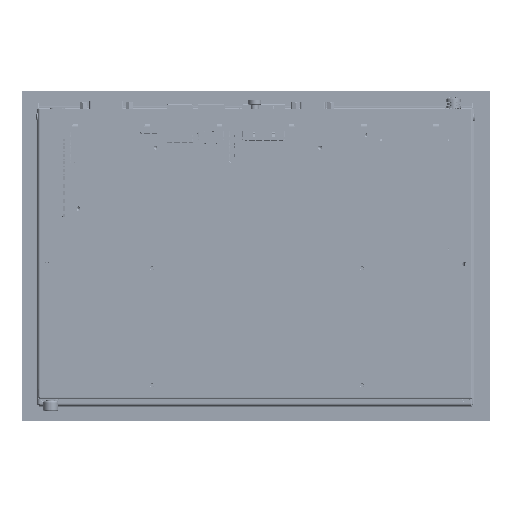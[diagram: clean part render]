
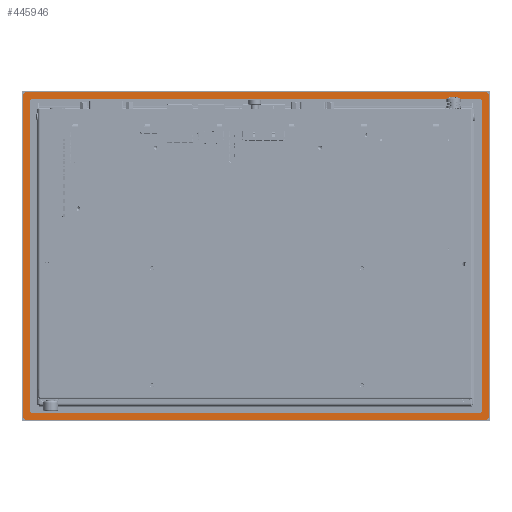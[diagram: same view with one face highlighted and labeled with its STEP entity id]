
A CAD part, front view. The second image highlights one B-rep face of the part: STEP entity #445946.
In plain terms, the highlighted planar face has unit normal (0, -1, 0).
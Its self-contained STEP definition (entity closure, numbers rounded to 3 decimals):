
#1013 = ORIENTED_EDGE ( 'NONE', *, *, #273734, .F. ) ;
#18241 = AXIS2_PLACEMENT_3D ( 'NONE', #714880, #640616, #336709 ) ;
#21949 = CIRCLE ( 'NONE', #809117, 1. ) ;
#32376 = VERTEX_POINT ( 'NONE', #292591 ) ;
#33002 = EDGE_CURVE ( 'NONE', #618629, #251806, #686676, .T. ) ;
#39154 = VECTOR ( 'NONE', #741166, 1000. ) ;
#43183 = DIRECTION ( 'NONE',  ( 1., 0., 0. ) ) ;
#44904 = EDGE_CURVE ( 'NONE', #704969, #551937, #305956, .T. ) ;
#50464 = EDGE_LOOP ( 'NONE', ( #138203, #659644, #341992, #255423, #338565, #619307, #530589, #771738 ) ) ;
#50985 = CARTESIAN_POINT ( 'NONE',  ( 158.5, 0., 111. ) ) ;
#62886 = CARTESIAN_POINT ( 'NONE',  ( -164.5, 0., 114. ) ) ;
#68148 = VECTOR ( 'NONE', #116908, 1000. ) ;
#86192 = VERTEX_POINT ( 'NONE', #159908 ) ;
#86249 = DIRECTION ( 'NONE',  ( 0., 0., -1. ) ) ;
#88969 = CARTESIAN_POINT ( 'NONE',  ( 164.5, 0., 114. ) ) ;
#93926 = CARTESIAN_POINT ( 'NONE',  ( 158.5, 0., 110. ) ) ;
#99379 = VERTEX_POINT ( 'NONE', #608553 ) ;
#99466 = VERTEX_POINT ( 'NONE', #50985 ) ;
#99819 = CARTESIAN_POINT ( 'NONE',  ( 162.5, 0., 116. ) ) ;
#104882 = DIRECTION ( 'NONE',  ( 0., 1., 0. ) ) ;
#108554 = VERTEX_POINT ( 'NONE', #118766 ) ;
#116908 = DIRECTION ( 'NONE',  ( 1., 0., 0. ) ) ;
#118489 = DIRECTION ( 'NONE',  ( 0., 0., 1. ) ) ;
#118766 = CARTESIAN_POINT ( 'NONE',  ( -164.5, 0., -114. ) ) ;
#127230 = CIRCLE ( 'NONE', #187119, 1. ) ;
#131542 = VECTOR ( 'NONE', #43183, 1000. ) ;
#138203 = ORIENTED_EDGE ( 'NONE', *, *, #266349, .F. ) ;
#142507 = AXIS2_PLACEMENT_3D ( 'NONE', #168344, #104882, #609792 ) ;
#152864 = LINE ( 'NONE', #488639, #172661 ) ;
#153095 = DIRECTION ( 'NONE',  ( 0., 0., -1. ) ) ;
#157709 = ORIENTED_EDGE ( 'NONE', *, *, #396145, .F. ) ;
#159908 = CARTESIAN_POINT ( 'NONE',  ( -158.5, 0., -111. ) ) ;
#164628 = EDGE_CURVE ( 'NONE', #622372, #704969, #273909, .T. ) ;
#168344 = CARTESIAN_POINT ( 'NONE',  ( -162.5, 0., 114. ) ) ;
#172661 = VECTOR ( 'NONE', #557576, 1000. ) ;
#174308 = CARTESIAN_POINT ( 'NONE',  ( -164.5, 0., -114. ) ) ;
#186698 = EDGE_CURVE ( 'NONE', #347739, #574750, #375897, .T. ) ;
#187119 = AXIS2_PLACEMENT_3D ( 'NONE', #93926, #588038, #463577 ) ;
#190798 = EDGE_CURVE ( 'NONE', #86192, #399401, #378454, .T. ) ;
#196487 = EDGE_CURVE ( 'NONE', #574750, #32376, #359780, .T. ) ;
#196857 = CIRCLE ( 'NONE', #142507, 2. ) ;
#199117 = VECTOR ( 'NONE', #459983, 1000. ) ;
#217043 = CARTESIAN_POINT ( 'NONE',  ( 158.5, 0., 111. ) ) ;
#224051 = CARTESIAN_POINT ( 'NONE',  ( 158.5, 0., -111. ) ) ;
#225411 = CARTESIAN_POINT ( 'NONE',  ( 0., 0., 0. ) ) ;
#233581 = DIRECTION ( 'NONE',  ( 0., -1., 0. ) ) ;
#234433 = CARTESIAN_POINT ( 'NONE',  ( 162.5, 0., 114. ) ) ;
#234577 = CARTESIAN_POINT ( 'NONE',  ( -162.5, 0., -114. ) ) ;
#237156 = DIRECTION ( 'NONE',  ( 0., 1., 0. ) ) ;
#251806 = VERTEX_POINT ( 'NONE', #766737 ) ;
#255423 = ORIENTED_EDGE ( 'NONE', *, *, #468481, .F. ) ;
#260227 = AXIS2_PLACEMENT_3D ( 'NONE', #225411, #788644, #537280 ) ;
#261096 = VERTEX_POINT ( 'NONE', #786191 ) ;
#266349 = EDGE_CURVE ( 'NONE', #32376, #86192, #592754, .T. ) ;
#273734 = EDGE_CURVE ( 'NONE', #251806, #622372, #795043, .T. ) ;
#273909 = CIRCLE ( 'NONE', #673757, 2. ) ;
#292591 = CARTESIAN_POINT ( 'NONE',  ( -159.5, 0., -110. ) ) ;
#297460 = ORIENTED_EDGE ( 'NONE', *, *, #435871, .F. ) ;
#305956 = LINE ( 'NONE', #558850, #39154 ) ;
#322219 = EDGE_CURVE ( 'NONE', #399401, #261096, #21949, .T. ) ;
#336709 = DIRECTION ( 'NONE',  ( 0., 0., 1. ) ) ;
#338565 = ORIENTED_EDGE ( 'NONE', *, *, #381204, .F. ) ;
#341611 = FACE_OUTER_BOUND ( 'NONE', #461780, .T. ) ;
#341992 = ORIENTED_EDGE ( 'NONE', *, *, #186698, .F. ) ;
#347739 = VERTEX_POINT ( 'NONE', #443159 ) ;
#350692 = EDGE_CURVE ( 'NONE', #261096, #651808, #152864, .T. ) ;
#352839 = CARTESIAN_POINT ( 'NONE',  ( -159.5, 0., 110. ) ) ;
#359780 = LINE ( 'NONE', #352839, #527652 ) ;
#360398 = DIRECTION ( 'NONE',  ( -1., 0., 0. ) ) ;
#362173 = DIRECTION ( 'NONE',  ( 0., 1., 0. ) ) ;
#365814 = CARTESIAN_POINT ( 'NONE',  ( -158.5, 0., -111. ) ) ;
#375897 = CIRCLE ( 'NONE', #18241, 1. ) ;
#378454 = LINE ( 'NONE', #365814, #131542 ) ;
#381204 = EDGE_CURVE ( 'NONE', #651808, #99466, #127230, .T. ) ;
#389428 = ORIENTED_EDGE ( 'NONE', *, *, #784908, .F. ) ;
#396145 = EDGE_CURVE ( 'NONE', #517945, #99379, #196857, .T. ) ;
#399401 = VERTEX_POINT ( 'NONE', #224051 ) ;
#399694 = VECTOR ( 'NONE', #86249, 1000. ) ;
#410882 = CARTESIAN_POINT ( 'NONE',  ( -159.5, 0., 110. ) ) ;
#412584 = CARTESIAN_POINT ( 'NONE',  ( 162.5, 0., -116. ) ) ;
#423466 = LINE ( 'NONE', #627370, #68148 ) ;
#424864 = DIRECTION ( 'NONE',  ( 0., 0., -1. ) ) ;
#435465 = ORIENTED_EDGE ( 'NONE', *, *, #44904, .F. ) ;
#435871 = EDGE_CURVE ( 'NONE', #108554, #517945, #775615, .T. ) ;
#443159 = CARTESIAN_POINT ( 'NONE',  ( -158.5, 0., 111. ) ) ;
#445946 = ADVANCED_FACE ( 'NONE', ( #687144, #341611 ), #799453, .F. ) ;
#459983 = DIRECTION ( 'NONE',  ( -1., 0., 0. ) ) ;
#460530 = CIRCLE ( 'NONE', #517280, 2. ) ;
#461780 = EDGE_LOOP ( 'NONE', ( #435465, #560759, #1013, #517582, #657975, #157709, #297460, #389428 ) ) ;
#463577 = DIRECTION ( 'NONE',  ( 1., 0., 0. ) ) ;
#468481 = EDGE_CURVE ( 'NONE', #99466, #347739, #495293, .T. ) ;
#483378 = DIRECTION ( 'NONE',  ( 0., 0., 1. ) ) ;
#486482 = DIRECTION ( 'NONE',  ( 1., 0., 0. ) ) ;
#488639 = CARTESIAN_POINT ( 'NONE',  ( 159.5, 0., -110. ) ) ;
#495293 = LINE ( 'NONE', #217043, #199117 ) ;
#517280 = AXIS2_PLACEMENT_3D ( 'NONE', #234577, #538257, #424864 ) ;
#517582 = ORIENTED_EDGE ( 'NONE', *, *, #33002, .F. ) ;
#517945 = VERTEX_POINT ( 'NONE', #62886 ) ;
#526354 = AXIS2_PLACEMENT_3D ( 'NONE', #611700, #233581, #360398 ) ;
#527652 = VECTOR ( 'NONE', #794610, 1000. ) ;
#530589 = ORIENTED_EDGE ( 'NONE', *, *, #322219, .F. ) ;
#534312 = CARTESIAN_POINT ( 'NONE',  ( 164.5, 0., -114. ) ) ;
#537280 = DIRECTION ( 'NONE',  ( 1., 0., 0. ) ) ;
#538257 = DIRECTION ( 'NONE',  ( 0., 1., 0. ) ) ;
#551937 = VERTEX_POINT ( 'NONE', #767133 ) ;
#557576 = DIRECTION ( 'NONE',  ( 0., 0., 1. ) ) ;
#558850 = CARTESIAN_POINT ( 'NONE',  ( 162.5, 0., -116. ) ) ;
#560759 = ORIENTED_EDGE ( 'NONE', *, *, #164628, .F. ) ;
#574750 = VERTEX_POINT ( 'NONE', #410882 ) ;
#588038 = DIRECTION ( 'NONE',  ( 0., -1., 0. ) ) ;
#592754 = CIRCLE ( 'NONE', #526354, 1. ) ;
#608553 = CARTESIAN_POINT ( 'NONE',  ( -162.5, 0., 116. ) ) ;
#609792 = DIRECTION ( 'NONE',  ( -1., 0., 0. ) ) ;
#611700 = CARTESIAN_POINT ( 'NONE',  ( -158.5, 0., -110. ) ) ;
#618629 = VERTEX_POINT ( 'NONE', #99819 ) ;
#619307 = ORIENTED_EDGE ( 'NONE', *, *, #350692, .F. ) ;
#622372 = VERTEX_POINT ( 'NONE', #534312 ) ;
#627370 = CARTESIAN_POINT ( 'NONE',  ( -162.5, 0., 116. ) ) ;
#640616 = DIRECTION ( 'NONE',  ( 0., -1., 0. ) ) ;
#651808 = VERTEX_POINT ( 'NONE', #802605 ) ;
#657975 = ORIENTED_EDGE ( 'NONE', *, *, #804347, .F. ) ;
#659644 = ORIENTED_EDGE ( 'NONE', *, *, #196487, .F. ) ;
#673757 = AXIS2_PLACEMENT_3D ( 'NONE', #740474, #362173, #486482 ) ;
#686676 = CIRCLE ( 'NONE', #737629, 2. ) ;
#687144 = FACE_BOUND ( 'NONE', #50464, .T. ) ;
#704969 = VERTEX_POINT ( 'NONE', #412584 ) ;
#714880 = CARTESIAN_POINT ( 'NONE',  ( -158.5, 0., 110. ) ) ;
#718810 = CARTESIAN_POINT ( 'NONE',  ( 158.5, 0., -110. ) ) ;
#737629 = AXIS2_PLACEMENT_3D ( 'NONE', #234433, #237156, #118489 ) ;
#740474 = CARTESIAN_POINT ( 'NONE',  ( 162.5, 0., -114. ) ) ;
#741166 = DIRECTION ( 'NONE',  ( -1., 0., 0. ) ) ;
#755797 = VECTOR ( 'NONE', #483378, 1000. ) ;
#766737 = CARTESIAN_POINT ( 'NONE',  ( 164.5, 0., 114. ) ) ;
#767133 = CARTESIAN_POINT ( 'NONE',  ( -162.5, 0., -116. ) ) ;
#771738 = ORIENTED_EDGE ( 'NONE', *, *, #190798, .F. ) ;
#775615 = LINE ( 'NONE', #174308, #755797 ) ;
#782379 = DIRECTION ( 'NONE',  ( 0., -1., 0. ) ) ;
#784908 = EDGE_CURVE ( 'NONE', #551937, #108554, #460530, .T. ) ;
#786191 = CARTESIAN_POINT ( 'NONE',  ( 159.5, 0., -110. ) ) ;
#788644 = DIRECTION ( 'NONE',  ( 0., 1., 0. ) ) ;
#794610 = DIRECTION ( 'NONE',  ( 0., 0., -1. ) ) ;
#795043 = LINE ( 'NONE', #88969, #399694 ) ;
#799453 = PLANE ( 'NONE',  #260227 ) ;
#802605 = CARTESIAN_POINT ( 'NONE',  ( 159.5, 0., 110. ) ) ;
#804347 = EDGE_CURVE ( 'NONE', #99379, #618629, #423466, .T. ) ;
#809117 = AXIS2_PLACEMENT_3D ( 'NONE', #718810, #782379, #153095 ) ;
